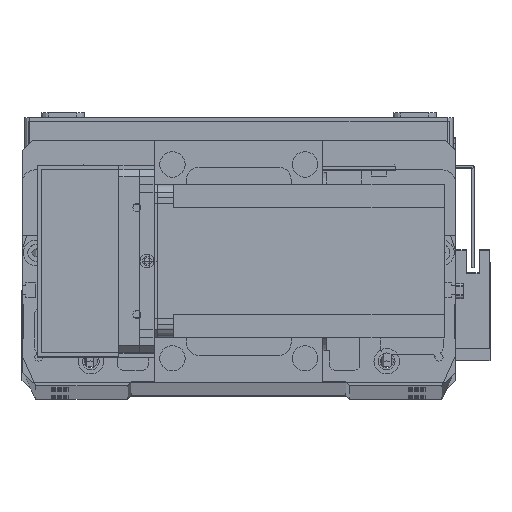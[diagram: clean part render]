
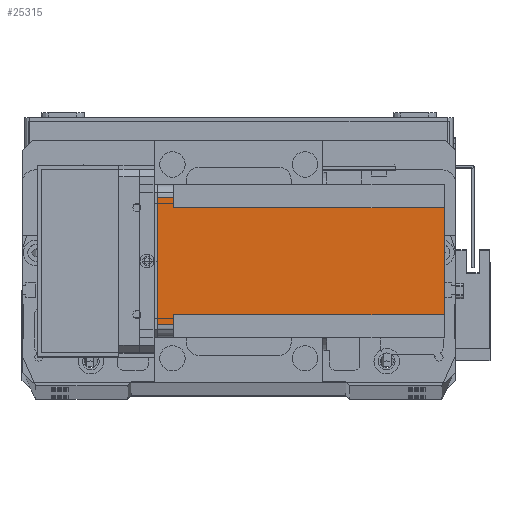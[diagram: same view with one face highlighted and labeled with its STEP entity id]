
A CAD part, top view. The second image highlights one B-rep face of the part: STEP entity #25315.
In plain terms, the highlighted planar face has unit normal (0, 0, 1) as drawn and (-1, 0, 0) by its records, which use the part's own axes.
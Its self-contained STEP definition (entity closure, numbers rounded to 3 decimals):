
#223 = ORIENTED_EDGE ( 'NONE', *, *, #23540, .T. ) ;
#244 = VERTEX_POINT ( 'NONE', #32982 ) ;
#2115 = EDGE_CURVE ( 'NONE', #22575, #27322, #33011, .T. ) ;
#2250 = ORIENTED_EDGE ( 'NONE', *, *, #5135, .F. ) ;
#2358 = LINE ( 'NONE', #33596, #7819 ) ;
#2397 = ORIENTED_EDGE ( 'NONE', *, *, #21792, .F. ) ;
#2540 = VECTOR ( 'NONE', #29511, 1000. ) ;
#2586 = LINE ( 'NONE', #5306, #30319 ) ;
#3160 = DIRECTION ( 'NONE',  ( -1., 0., 0. ) ) ;
#3214 = EDGE_CURVE ( 'NONE', #22575, #244, #25009, .T. ) ;
#3546 = VERTEX_POINT ( 'NONE', #30199 ) ;
#4204 = CARTESIAN_POINT ( 'NONE',  ( 0., 5., 0. ) ) ;
#4635 = ORIENTED_EDGE ( 'NONE', *, *, #3214, .F. ) ;
#5034 = CARTESIAN_POINT ( 'NONE',  ( 0., 55., -112.5 ) ) ;
#5135 = EDGE_CURVE ( 'NONE', #21690, #27322, #2586, .T. ) ;
#5306 = CARTESIAN_POINT ( 'NONE',  ( 0., 9., -112.5 ) ) ;
#5527 = CARTESIAN_POINT ( 'NONE',  ( 0., 55., 0. ) ) ;
#7819 = VECTOR ( 'NONE', #14693, 1000. ) ;
#7892 = EDGE_CURVE ( 'NONE', #244, #3546, #2358, .T. ) ;
#10088 = VECTOR ( 'NONE', #29099, 1000. ) ;
#10778 = CARTESIAN_POINT ( 'NONE',  ( 0., 9., -112.5 ) ) ;
#11006 = CARTESIAN_POINT ( 'NONE',  ( 0., 0., -112.5 ) ) ;
#11815 = VERTEX_POINT ( 'NONE', #5527 ) ;
#12019 = VERTEX_POINT ( 'NONE', #33081 ) ;
#12423 = VECTOR ( 'NONE', #30828, 1000. ) ;
#12702 = ORIENTED_EDGE ( 'NONE', *, *, #26434, .F. ) ;
#13982 = DIRECTION ( 'NONE',  ( 0., -1., 0. ) ) ;
#14693 = DIRECTION ( 'NONE',  ( 0., 1., 0. ) ) ;
#16100 = DIRECTION ( 'NONE',  ( 0., 0., -1. ) ) ;
#16184 = VECTOR ( 'NONE', #21978, 1000. ) ;
#16600 = CARTESIAN_POINT ( 'NONE',  ( 0., 5., -112.5 ) ) ;
#17011 = VECTOR ( 'NONE', #26093, 1000. ) ;
#17561 = VECTOR ( 'NONE', #13982, 1000. ) ;
#18830 = CARTESIAN_POINT ( 'NONE',  ( 0., 9., -6.5 ) ) ;
#19873 = EDGE_LOOP ( 'NONE', ( #12702, #223, #2397, #31331, #31075, #4635, #28355, #2250 ) ) ;
#21690 = VERTEX_POINT ( 'NONE', #18830 ) ;
#21792 = EDGE_CURVE ( 'NONE', #11815, #32754, #24721, .T. ) ;
#21923 = DIRECTION ( 'NONE',  ( 0., -1., 0. ) ) ;
#21978 = DIRECTION ( 'NONE',  ( 0., 0., 1. ) ) ;
#22575 = VERTEX_POINT ( 'NONE', #28641 ) ;
#23540 = EDGE_CURVE ( 'NONE', #12019, #32754, #30482, .T. ) ;
#23981 = LINE ( 'NONE', #26904, #2540 ) ;
#24710 = CARTESIAN_POINT ( 'NONE',  ( 0., 0., 0. ) ) ;
#24721 = LINE ( 'NONE', #24710, #17561 ) ;
#25009 = LINE ( 'NONE', #28820, #17011 ) ;
#25315 = ADVANCED_FACE ( 'NONE', ( #29100 ), #29944, .T. ) ;
#26093 = DIRECTION ( 'NONE',  ( 0., 0., 1. ) ) ;
#26434 = EDGE_CURVE ( 'NONE', #12019, #21690, #23981, .T. ) ;
#26904 = CARTESIAN_POINT ( 'NONE',  ( 0., 0., -6.5 ) ) ;
#27322 = VERTEX_POINT ( 'NONE', #10778 ) ;
#27483 = AXIS2_PLACEMENT_3D ( 'NONE', #11006, #3160, #21923 ) ;
#27871 = EDGE_CURVE ( 'NONE', #11815, #3546, #31540, .T. ) ;
#28130 = CARTESIAN_POINT ( 'NONE',  ( 0., 0., -112.5 ) ) ;
#28355 = ORIENTED_EDGE ( 'NONE', *, *, #2115, .T. ) ;
#28641 = CARTESIAN_POINT ( 'NONE',  ( 0., 51., -112.5 ) ) ;
#28820 = CARTESIAN_POINT ( 'NONE',  ( 0., 51., -112.5 ) ) ;
#29099 = DIRECTION ( 'NONE',  ( 0., 0., -1. ) ) ;
#29100 = FACE_OUTER_BOUND ( 'NONE', #19873, .T. ) ;
#29511 = DIRECTION ( 'NONE',  ( 0., 1., 0. ) ) ;
#29944 = PLANE ( 'NONE',  #27483 ) ;
#30199 = CARTESIAN_POINT ( 'NONE',  ( 0., 55., -6.5 ) ) ;
#30319 = VECTOR ( 'NONE', #16100, 1000. ) ;
#30482 = LINE ( 'NONE', #16600, #16184 ) ;
#30828 = DIRECTION ( 'NONE',  ( 0., -1., 0. ) ) ;
#31075 = ORIENTED_EDGE ( 'NONE', *, *, #7892, .F. ) ;
#31331 = ORIENTED_EDGE ( 'NONE', *, *, #27871, .T. ) ;
#31540 = LINE ( 'NONE', #5034, #10088 ) ;
#32754 = VERTEX_POINT ( 'NONE', #4204 ) ;
#32982 = CARTESIAN_POINT ( 'NONE',  ( 0., 51., -6.5 ) ) ;
#33011 = LINE ( 'NONE', #28130, #12423 ) ;
#33081 = CARTESIAN_POINT ( 'NONE',  ( 0., 5., -6.5 ) ) ;
#33596 = CARTESIAN_POINT ( 'NONE',  ( 0., 60., -6.5 ) ) ;
